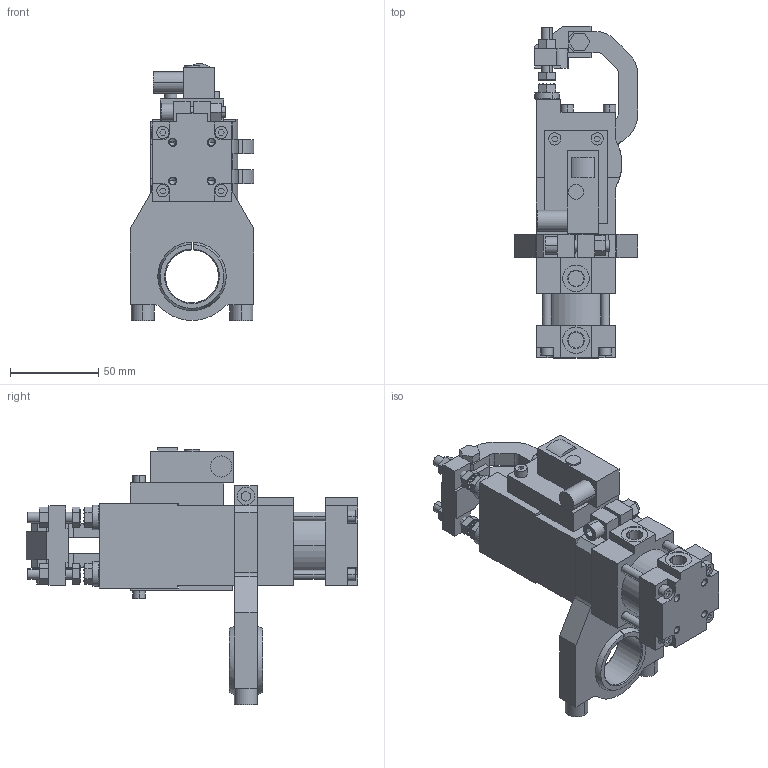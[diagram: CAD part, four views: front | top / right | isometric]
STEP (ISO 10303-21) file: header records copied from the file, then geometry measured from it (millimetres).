
FILE_DESCRIPTION (( 'STEP AP214' ), '1' );
FILE_NAME ('b32_a2s4_pla___a_b30.STEP', '2018-05-08T12:50:00', ( 'vepadmin' ), ( 'Hewlett-Packard Company' ), 'SwSTEP 2.0', 'SolidWorks 2018', '' );
FILE_SCHEMA (( 'AUTOMOTIVE_DESIGN' ));
Length unit declared in the file: millimetre
Products named in the file (13): calotta_sferica_30_b32; attacco_snodo_b30_b32; rondella_s4_b32a; piedino_zigrinato_M6x25; piedino_zigrinato_M6x10; gruppo_cilindro_b32; tassello_a2_b32; blocchetto_p&f_90; scatola_micro_b32; riparo_micro_b32; leva_b32a; gruppo_montante_b32a; b32_a2s4_pla___a_b30
Assembly tree (15 placements, depth 2):
  b32_a2s4_pla___a_b30
    gruppo_montante_b32a
    leva_b32a
    riparo_micro_b32
    scatola_micro_b32
    blocchetto_p&f_90
    tassello_a2_b32
    gruppo_cilindro_b32
    piedino_zigrinato_M6x10  x2
    piedino_zigrinato_M6x25  x2
    rondella_s4_b32a  x2
    attacco_snodo_b30_b32
    calotta_sferica_30_b32
Bounding box: 70 x 188 x 145.6 mm (x, y, z)
Volume: 391901.8 mm3; surface area: 113422.2 mm2
Topology: 15 solids, 15 shells, 1106 faces, 2622 edges, 1690 vertices
Faces by surface type: plane 783, cylinder 263, cone 56, sphere 4
Entity records: 25306 total; most frequent: CARTESIAN_POINT 4564, DIRECTION 4166, ORIENTED_EDGE 4118, EDGE_CURVE 2059, LINE 1504, VECTOR 1504, VERTEX_POINT 1341, AXIS2_PLACEMENT_3D 1331
